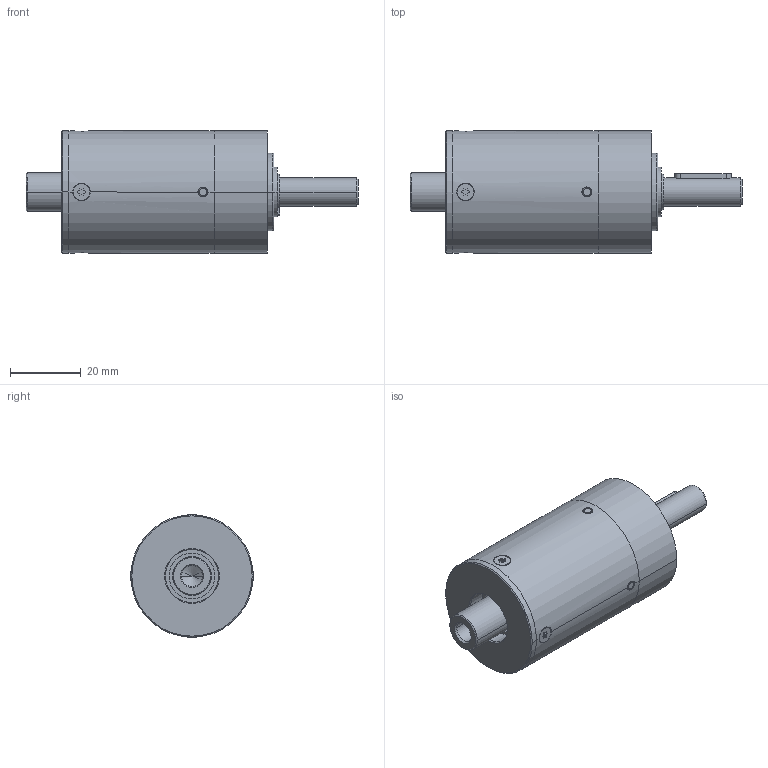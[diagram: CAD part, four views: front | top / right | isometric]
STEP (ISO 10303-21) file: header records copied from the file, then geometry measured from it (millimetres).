
FILE_DESCRIPTION((''),'2;1');
FILE_NAME('IMS35_PRO_MAX_2_STAGE_ASM','2023-07-27T11:59:46',('mhummel'),(''),'CREO PARAMETRIC BY PTC INC, 2020184','CREO PARAMETRIC BY PTC INC, 2020184','');
FILE_SCHEMA(('AUTOMOTIVE_DESIGN { 1 0 10303 214 1 1 1 1 }'));
Length unit declared in the file: millimetre
Products named in the file (16): IMS35_PRO_MAX_BEARING_FLANGE; IMS35_PRO_MAX_BALL_BEARING; IMS35_PRO_MAX_RING_GEAR_2; IMS35_PRO_MAX_CYLINDER_PIN; IMS35_PRO_MAX_RING_GEAR_2_STAGE_ASM; IMS35_PRO_MAX_MOTOR_FLANGE; IMS35_PRO_MAX_SHAFT_RAW_AF0; IMS35_PRO_MAX_SHAFT_ASM; IMS35_PRO_MAX_SHIM_RING; IMS35_PRO_MAX_RETAINING_RING_A; IMS35_PRO_MAX_FEATHER_KEY; IMS35_PRO_MAX_THRUST_WASHER; IMS35_PRO_MAX_SCREW; IMS35_PRO_MAX_MO_PINION_LONG; IMS35_PRO_MAX_MO_PINION_SHORT; IMS35_PRO_MAX_2_STAGE_ASM
Assembly tree (22 placements, depth 3):
  IMS35_PRO_MAX_2_STAGE_ASM
    IMS35_PRO_MAX_BEARING_FLANGE
    IMS35_PRO_MAX_BALL_BEARING  x2
    IMS35_PRO_MAX_RING_GEAR_2_STAGE_ASM
      IMS35_PRO_MAX_RING_GEAR_2
      IMS35_PRO_MAX_CYLINDER_PIN  x4
    IMS35_PRO_MAX_MOTOR_FLANGE
    IMS35_PRO_MAX_SHAFT_ASM
      IMS35_PRO_MAX_SHAFT_RAW_AF0
    IMS35_PRO_MAX_SHIM_RING
    IMS35_PRO_MAX_RETAINING_RING_A
    IMS35_PRO_MAX_FEATHER_KEY
    IMS35_PRO_MAX_THRUST_WASHER
    IMS35_PRO_MAX_SCREW  x4
    IMS35_PRO_MAX_MO_PINION_LONG
    IMS35_PRO_MAX_MO_PINION_SHORT
Bounding box: 93.85 x 34.6 x 34.6 mm (x, y, z)
Volume: 40799.9 mm3; surface area: 28137.5 mm2
Topology: 24 solids, 26 shells, 446 faces, 1025 edges, 626 vertices
Faces by surface type: cylinder 198, plane 120, cone 70, torus 42, revolution 16
Entity records: 11738 total; most frequent: CARTESIAN_POINT 1912, DIRECTION 1527, ORIENTED_EDGE 1258, PRESENTATION_STYLE_ASSIGNMENT 708, STYLED_ITEM 704, CURVE_STYLE 633, AXIS2_PLACEMENT_3D 629, EDGE_CURVE 629
